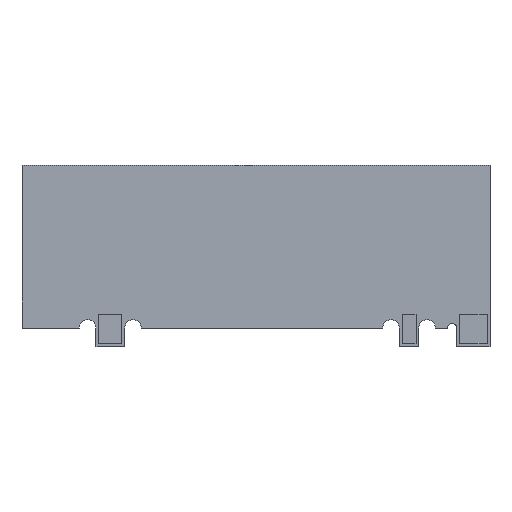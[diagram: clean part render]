
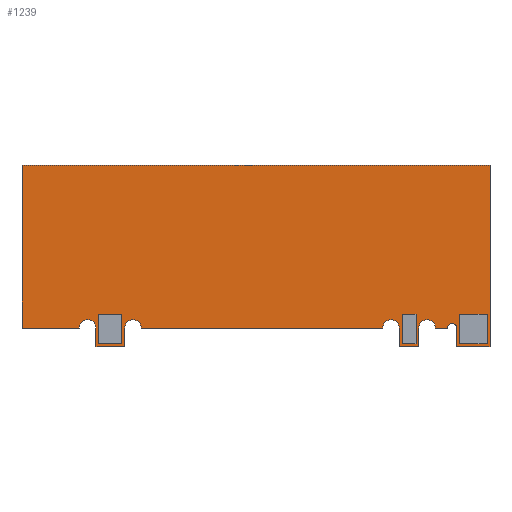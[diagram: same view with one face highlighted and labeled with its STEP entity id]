
A CAD part, top view. The second image highlights one B-rep face of the part: STEP entity #1239.
In plain terms, the highlighted planar face has unit normal (0, 0, 1).
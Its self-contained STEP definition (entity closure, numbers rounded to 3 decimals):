
#78=CARTESIAN_POINT('',(-16.905,-8.465,0.));
#79=DIRECTION('',(0.,0.,1.));
#80=DIRECTION('',(1.,0.,0.));
#81=AXIS2_PLACEMENT_3D('',#78,#79,#80);
#87=DIRECTION('',(1.,0.,0.));
#88=VECTOR('',#87,6.2);
#89=CARTESIAN_POINT('',(-24.005,-8.465,0.));
#90=LINE('',#89,#88);
#94=DIRECTION('',(0.,-1.,0.));
#95=VECTOR('',#94,17.6);
#96=CARTESIAN_POINT('',(-24.005,9.135,0.));
#97=LINE('',#96,#95);
#101=DIRECTION('',(-1.,0.,0.));
#102=VECTOR('',#101,50.6);
#103=CARTESIAN_POINT('',(26.595,9.135,0.));
#104=LINE('',#103,#102);
#108=DIRECTION('',(0.,1.,0.));
#109=VECTOR('',#108,19.6);
#110=CARTESIAN_POINT('',(26.595,-10.465,0.));
#111=LINE('',#110,#109);
#115=DIRECTION('',(1.,0.,0.));
#116=VECTOR('',#115,3.6);
#117=CARTESIAN_POINT('',(22.995,-10.465,0.));
#118=LINE('',#117,#116);
#122=DIRECTION('',(0.,-1.,0.));
#123=VECTOR('',#122,2.);
#124=CARTESIAN_POINT('',(22.995,-8.465,0.));
#125=LINE('',#124,#123);
#129=CARTESIAN_POINT('',(22.494,-8.465,0.));
#130=DIRECTION('',(0.,0.,1.));
#131=DIRECTION('',(1.,0.,0.));
#132=AXIS2_PLACEMENT_3D('',#129,#130,#131);
#137=DIRECTION('',(1.,0.,0.));
#138=VECTOR('',#137,1.297);
#139=CARTESIAN_POINT('',(20.695,-8.465,0.));
#140=LINE('',#139,#138);
#144=CARTESIAN_POINT('',(19.795,-8.465,0.));
#145=DIRECTION('',(0.,0.,1.));
#146=DIRECTION('',(1.,0.,0.));
#147=AXIS2_PLACEMENT_3D('',#144,#145,#146);
#152=DIRECTION('',(0.,1.,0.));
#153=VECTOR('',#152,2.);
#154=CARTESIAN_POINT('',(18.895,-10.465,0.));
#155=LINE('',#154,#153);
#159=DIRECTION('',(1.,0.,0.));
#160=VECTOR('',#159,2.1);
#161=CARTESIAN_POINT('',(16.795,-10.465,0.));
#162=LINE('',#161,#160);
#166=DIRECTION('',(0.,-1.,0.));
#167=VECTOR('',#166,2.);
#168=CARTESIAN_POINT('',(16.795,-8.465,0.));
#169=LINE('',#168,#167);
#173=CARTESIAN_POINT('',(15.895,-8.465,0.));
#174=DIRECTION('',(0.,0.,1.));
#175=DIRECTION('',(1.,0.,0.));
#176=AXIS2_PLACEMENT_3D('',#173,#174,#175);
#181=DIRECTION('',(1.,0.,0.));
#182=VECTOR('',#181,26.1);
#183=CARTESIAN_POINT('',(-11.105,-8.465,0.));
#184=LINE('',#183,#182);
#188=CARTESIAN_POINT('',(-12.005,-8.465,0.));
#189=DIRECTION('',(0.,0.,1.));
#190=DIRECTION('',(1.,0.,0.));
#191=AXIS2_PLACEMENT_3D('',#188,#189,#190);
#196=DIRECTION('',(0.,1.,0.));
#197=VECTOR('',#196,2.);
#198=CARTESIAN_POINT('',(-12.905,-10.465,0.));
#199=LINE('',#198,#197);
#203=DIRECTION('',(1.,0.,0.));
#204=VECTOR('',#203,3.1);
#205=CARTESIAN_POINT('',(-16.005,-10.465,0.));
#206=LINE('',#205,#204);
#210=DIRECTION('',(0.,-1.,0.));
#211=VECTOR('',#210,2.);
#212=CARTESIAN_POINT('',(-16.005,-8.465,0.));
#213=LINE('',#212,#211);
#217=DIRECTION('',(0.,1.,0.));
#218=VECTOR('',#217,3.2);
#219=CARTESIAN_POINT('',(-13.205,-10.165,0.));
#220=LINE('',#219,#218);
#224=DIRECTION('',(-1.,0.,0.));
#225=VECTOR('',#224,2.5);
#226=CARTESIAN_POINT('',(-13.205,-6.965,0.));
#227=LINE('',#226,#225);
#231=DIRECTION('',(0.,-1.,0.));
#232=VECTOR('',#231,3.2);
#233=CARTESIAN_POINT('',(-15.705,-6.965,0.));
#234=LINE('',#233,#232);
#238=DIRECTION('',(1.,0.,0.));
#239=VECTOR('',#238,2.5);
#240=CARTESIAN_POINT('',(-15.705,-10.165,0.));
#241=LINE('',#240,#239);
#245=DIRECTION('',(0.,1.,0.));
#246=VECTOR('',#245,3.2);
#247=CARTESIAN_POINT('',(18.595,-10.165,0.));
#248=LINE('',#247,#246);
#252=DIRECTION('',(-1.,0.,0.));
#253=VECTOR('',#252,1.5);
#254=CARTESIAN_POINT('',(18.595,-6.965,0.));
#255=LINE('',#254,#253);
#259=DIRECTION('',(0.,-1.,0.));
#260=VECTOR('',#259,3.2);
#261=CARTESIAN_POINT('',(17.095,-6.965,0.));
#262=LINE('',#261,#260);
#266=DIRECTION('',(1.,0.,0.));
#267=VECTOR('',#266,1.5);
#268=CARTESIAN_POINT('',(17.095,-10.165,0.));
#269=LINE('',#268,#267);
#273=DIRECTION('',(0.,1.,0.));
#274=VECTOR('',#273,3.2);
#275=CARTESIAN_POINT('',(26.295,-10.165,0.));
#276=LINE('',#275,#274);
#280=DIRECTION('',(-1.,0.,0.));
#281=VECTOR('',#280,3.);
#282=CARTESIAN_POINT('',(26.295,-6.965,0.));
#283=LINE('',#282,#281);
#287=DIRECTION('',(0.,-1.,0.));
#288=VECTOR('',#287,3.2);
#289=CARTESIAN_POINT('',(23.295,-6.965,0.));
#290=LINE('',#289,#288);
#294=DIRECTION('',(1.,0.,0.));
#295=VECTOR('',#294,3.);
#296=CARTESIAN_POINT('',(23.295,-10.165,0.));
#297=LINE('',#296,#295);
#992=CARTESIAN_POINT('',(26.595,9.135,0.));
#993=CARTESIAN_POINT('',(-24.005,9.135,0.));
#994=VERTEX_POINT('',#992);
#995=VERTEX_POINT('',#993);
#996=CARTESIAN_POINT('',(-24.005,-8.465,0.));
#997=VERTEX_POINT('',#996);
#998=CARTESIAN_POINT('',(26.595,-10.465,0.));
#999=VERTEX_POINT('',#998);
#1008=CARTESIAN_POINT('',(-16.005,-8.465,0.));
#1009=CARTESIAN_POINT('',(-17.805,-8.465,0.));
#1010=VERTEX_POINT('',#1008);
#1011=VERTEX_POINT('',#1009);
#1012=CARTESIAN_POINT('',(-11.105,-8.465,0.));
#1013=CARTESIAN_POINT('',(-12.905,-8.465,0.));
#1014=VERTEX_POINT('',#1012);
#1015=VERTEX_POINT('',#1013);
#1016=CARTESIAN_POINT('',(16.795,-8.465,0.));
#1017=CARTESIAN_POINT('',(14.995,-8.465,0.));
#1018=VERTEX_POINT('',#1016);
#1019=VERTEX_POINT('',#1017);
#1020=CARTESIAN_POINT('',(20.695,-8.465,0.));
#1021=CARTESIAN_POINT('',(18.895,-8.465,0.));
#1022=VERTEX_POINT('',#1020);
#1023=VERTEX_POINT('',#1021);
#1040=CARTESIAN_POINT('',(-16.005,-10.465,0.));
#1041=VERTEX_POINT('',#1040);
#1042=CARTESIAN_POINT('',(-12.905,-10.465,0.));
#1043=VERTEX_POINT('',#1042);
#1044=CARTESIAN_POINT('',(16.795,-10.465,0.));
#1045=VERTEX_POINT('',#1044);
#1046=CARTESIAN_POINT('',(18.895,-10.465,0.));
#1047=VERTEX_POINT('',#1046);
#1048=CARTESIAN_POINT('',(21.992,-8.465,0.));
#1049=VERTEX_POINT('',#1048);
#1050=CARTESIAN_POINT('',(22.995,-8.465,0.));
#1051=CARTESIAN_POINT('',(22.995,-10.465,0.));
#1052=VERTEX_POINT('',#1050);
#1053=VERTEX_POINT('',#1051);
#1092=CARTESIAN_POINT('',(-13.205,-10.165,0.));
#1093=CARTESIAN_POINT('',(-13.205,-6.965,0.));
#1094=VERTEX_POINT('',#1092);
#1095=VERTEX_POINT('',#1093);
#1096=CARTESIAN_POINT('',(-15.705,-6.965,0.));
#1097=VERTEX_POINT('',#1096);
#1098=CARTESIAN_POINT('',(-15.705,-10.165,0.));
#1099=VERTEX_POINT('',#1098);
#1100=CARTESIAN_POINT('',(18.595,-10.165,0.));
#1101=CARTESIAN_POINT('',(18.595,-6.965,0.));
#1102=VERTEX_POINT('',#1100);
#1103=VERTEX_POINT('',#1101);
#1104=CARTESIAN_POINT('',(17.095,-6.965,0.));
#1105=VERTEX_POINT('',#1104);
#1106=CARTESIAN_POINT('',(17.095,-10.165,0.));
#1107=VERTEX_POINT('',#1106);
#1108=CARTESIAN_POINT('',(26.295,-10.165,0.));
#1109=CARTESIAN_POINT('',(26.295,-6.965,0.));
#1110=VERTEX_POINT('',#1108);
#1111=VERTEX_POINT('',#1109);
#1112=CARTESIAN_POINT('',(23.295,-6.965,0.));
#1113=VERTEX_POINT('',#1112);
#1114=CARTESIAN_POINT('',(23.295,-10.165,0.));
#1115=VERTEX_POINT('',#1114);
#1164=CARTESIAN_POINT('',(0.,0.,0.));
#1165=DIRECTION('',(0.,0.,1.));
#1166=DIRECTION('',(1.,0.,0.));
#1167=AXIS2_PLACEMENT_3D('',#1164,#1165,#1166);
#1168=PLANE('',#1167);
#1170=ORIENTED_EDGE('',*,*,#1169,.T.);
#1172=ORIENTED_EDGE('',*,*,#1171,.F.);
#1174=ORIENTED_EDGE('',*,*,#1173,.F.);
#1176=ORIENTED_EDGE('',*,*,#1175,.F.);
#1178=ORIENTED_EDGE('',*,*,#1177,.F.);
#1180=ORIENTED_EDGE('',*,*,#1179,.F.);
#1182=ORIENTED_EDGE('',*,*,#1181,.F.);
#1184=ORIENTED_EDGE('',*,*,#1183,.T.);
#1186=ORIENTED_EDGE('',*,*,#1185,.F.);
#1188=ORIENTED_EDGE('',*,*,#1187,.T.);
#1190=ORIENTED_EDGE('',*,*,#1189,.F.);
#1192=ORIENTED_EDGE('',*,*,#1191,.F.);
#1194=ORIENTED_EDGE('',*,*,#1193,.F.);
#1196=ORIENTED_EDGE('',*,*,#1195,.T.);
#1198=ORIENTED_EDGE('',*,*,#1197,.F.);
#1200=ORIENTED_EDGE('',*,*,#1199,.T.);
#1202=ORIENTED_EDGE('',*,*,#1201,.F.);
#1204=ORIENTED_EDGE('',*,*,#1203,.F.);
#1206=ORIENTED_EDGE('',*,*,#1205,.F.);
#1207=EDGE_LOOP('',(#1170,#1172,#1174,#1176,#1178,#1180,#1182,#1184,#1186,#1188,
#1190,#1192,#1194,#1196,#1198,#1200,#1202,#1204,#1206));
#1208=FACE_OUTER_BOUND('',#1207,.F.);
#1210=ORIENTED_EDGE('',*,*,#1209,.T.);
#1212=ORIENTED_EDGE('',*,*,#1211,.T.);
#1214=ORIENTED_EDGE('',*,*,#1213,.T.);
#1216=ORIENTED_EDGE('',*,*,#1215,.T.);
#1217=EDGE_LOOP('',(#1210,#1212,#1214,#1216));
#1218=FACE_BOUND('',#1217,.F.);
#1220=ORIENTED_EDGE('',*,*,#1219,.T.);
#1222=ORIENTED_EDGE('',*,*,#1221,.T.);
#1224=ORIENTED_EDGE('',*,*,#1223,.T.);
#1226=ORIENTED_EDGE('',*,*,#1225,.T.);
#1227=EDGE_LOOP('',(#1220,#1222,#1224,#1226));
#1228=FACE_BOUND('',#1227,.F.);
#1230=ORIENTED_EDGE('',*,*,#1229,.T.);
#1232=ORIENTED_EDGE('',*,*,#1231,.T.);
#1234=ORIENTED_EDGE('',*,*,#1233,.T.);
#1236=ORIENTED_EDGE('',*,*,#1235,.T.);
#1237=EDGE_LOOP('',(#1230,#1232,#1234,#1236));
#1238=FACE_BOUND('',#1237,.F.);
#82=CIRCLE('',#81,0.9);
#133=CIRCLE('',#132,0.501);
#148=CIRCLE('',#147,0.9);
#177=CIRCLE('',#176,0.9);
#192=CIRCLE('',#191,0.9);
#1169=EDGE_CURVE('',#1010,#1011,#82,.T.);
#1171=EDGE_CURVE('',#997,#1011,#90,.T.);
#1173=EDGE_CURVE('',#995,#997,#97,.T.);
#1175=EDGE_CURVE('',#994,#995,#104,.T.);
#1177=EDGE_CURVE('',#999,#994,#111,.T.);
#1179=EDGE_CURVE('',#1053,#999,#118,.T.);
#1181=EDGE_CURVE('',#1052,#1053,#125,.T.);
#1183=EDGE_CURVE('',#1052,#1049,#133,.T.);
#1185=EDGE_CURVE('',#1022,#1049,#140,.T.);
#1187=EDGE_CURVE('',#1022,#1023,#148,.T.);
#1189=EDGE_CURVE('',#1047,#1023,#155,.T.);
#1191=EDGE_CURVE('',#1045,#1047,#162,.T.);
#1193=EDGE_CURVE('',#1018,#1045,#169,.T.);
#1195=EDGE_CURVE('',#1018,#1019,#177,.T.);
#1197=EDGE_CURVE('',#1014,#1019,#184,.T.);
#1199=EDGE_CURVE('',#1014,#1015,#192,.T.);
#1201=EDGE_CURVE('',#1043,#1015,#199,.T.);
#1203=EDGE_CURVE('',#1041,#1043,#206,.T.);
#1205=EDGE_CURVE('',#1010,#1041,#213,.T.);
#1209=EDGE_CURVE('',#1094,#1095,#220,.T.);
#1211=EDGE_CURVE('',#1095,#1097,#227,.T.);
#1213=EDGE_CURVE('',#1097,#1099,#234,.T.);
#1215=EDGE_CURVE('',#1099,#1094,#241,.T.);
#1219=EDGE_CURVE('',#1102,#1103,#248,.T.);
#1221=EDGE_CURVE('',#1103,#1105,#255,.T.);
#1223=EDGE_CURVE('',#1105,#1107,#262,.T.);
#1225=EDGE_CURVE('',#1107,#1102,#269,.T.);
#1229=EDGE_CURVE('',#1110,#1111,#276,.T.);
#1231=EDGE_CURVE('',#1111,#1113,#283,.T.);
#1233=EDGE_CURVE('',#1113,#1115,#290,.T.);
#1235=EDGE_CURVE('',#1115,#1110,#297,.T.);
#1239=ADVANCED_FACE('',(#1208,#1218,#1228,#1238),#1168,.T.);
